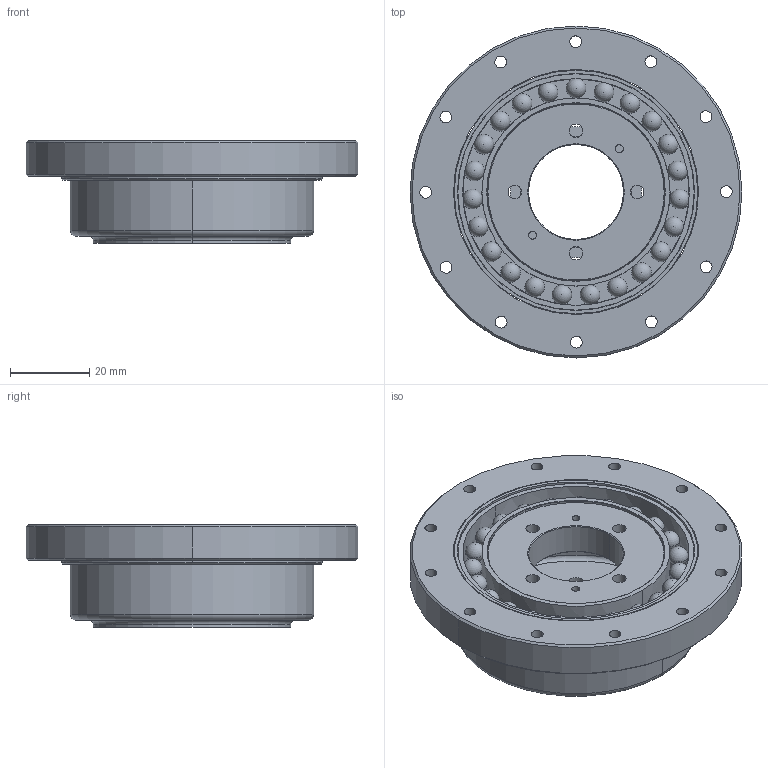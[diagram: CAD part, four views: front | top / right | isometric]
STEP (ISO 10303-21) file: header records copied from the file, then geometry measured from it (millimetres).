
FILE_DESCRIPTION (( 'STEP AP203' ), '1' );
FILE_NAME ('PGK 22-160.STEP', '2022-01-11T18:26:37', ( '' ), ( '' ), 'SwSTEP 2.0', 'SolidWorks 2018', '' );
FILE_SCHEMA (( 'CONFIG_CONTROL_DESIGN' ));
Length unit declared in the file: millimetre
Products named in the file (5): PGK22-160-70-01; PGK22-160-70-02; PGK22-160-70-04; PGK22-160-70-03; PGK 22-160
Assembly tree (4 placements, depth 2):
  PGK 22-160
    PGK22-160-70-01
    PGK22-160-70-04
    PGK22-160-70-03
    PGK22-160-70-02
Bounding box: 84 x 84 x 26 mm (x, y, z)
Volume: 43192.5 mm3; surface area: 37095 mm2
Topology: 4 solids, 4 shells, 171 faces, 634 edges, 428 vertices
Faces by surface type: cylinder 80, sphere 46, torus 14, plane 13, cone 12, bspline 6
Entity records: 11173 total; most frequent: CARTESIAN_POINT 5842, DIRECTION 1024, ORIENTED_EDGE 996, EDGE_CURVE 498, AXIS2_PLACEMENT_3D 464, VERTEX_POINT 338, CIRCLE 292, EDGE_LOOP 284
